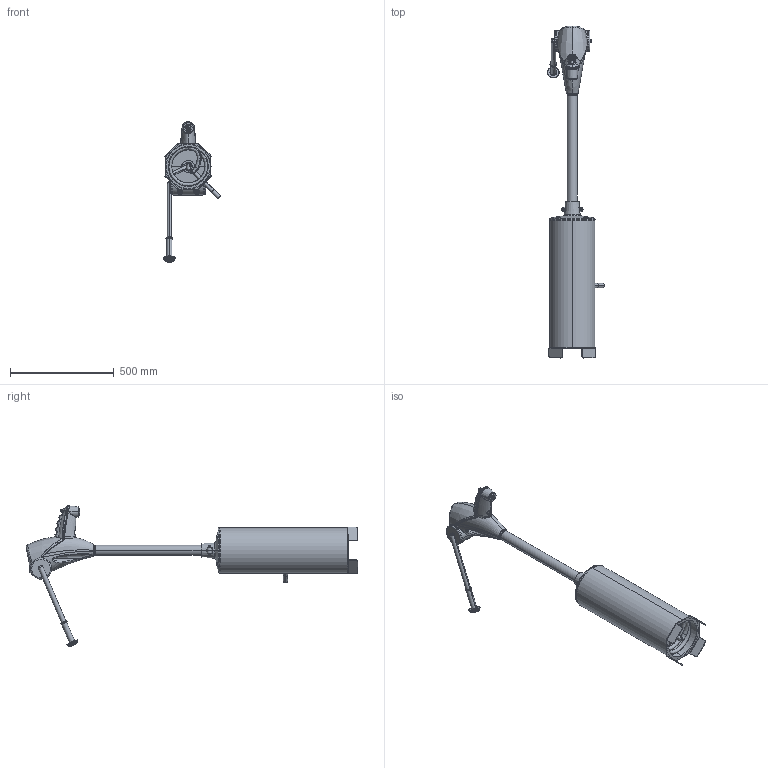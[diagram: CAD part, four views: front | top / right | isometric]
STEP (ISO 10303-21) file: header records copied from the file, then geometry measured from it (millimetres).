
FILE_DESCRIPTION (( 'STEP AP214' ), '1' );
FILE_NAME ('570.201.010.xxx - Pump with Anchor.STEP', '2021-01-14T11:09:02', ( '' ), ( '' ), 'SwSTEP 2.0', 'SolidWorks 2018', '' );
FILE_SCHEMA (( 'AUTOMOTIVE_DESIGN' ));
Length unit declared in the file: millimetre
Products named in the file (1): 570.201.010.xxx - Pump with Anchor
Bounding box: 274.99 x 1602.7 x 678.24 mm (x, y, z)
Surface area: 1965180.8 mm2 (no closed solid volume)
Topology: 0 solids, 66 shells, 3443 faces, 8243 edges, 4844 vertices
Faces by surface type: cylinder 1196, bspline 773, plane 757, torus 318, sphere 288, cone 111
Entity records: 226812 total; most frequent: CARTESIAN_POINT 116159, ORIENTED_EDGE 15173, DIRECTION 14526, EDGE_CURVE 7938, AXIS2_PLACEMENT_3D 5950, VERTEX_POINT 4710, EDGE_LOOP 3686, UNCERTAINTY_MEASURE_WITH_UNIT 3471
